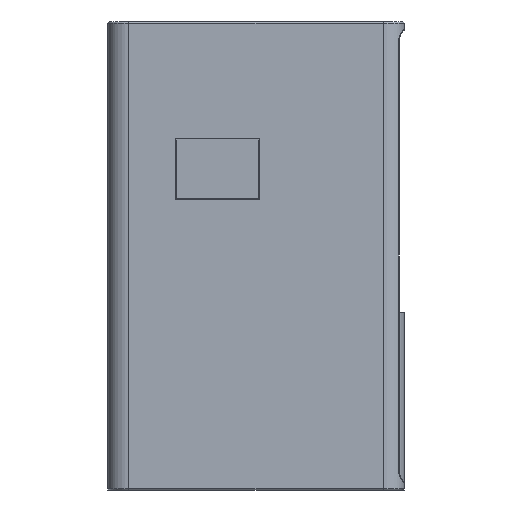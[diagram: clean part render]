
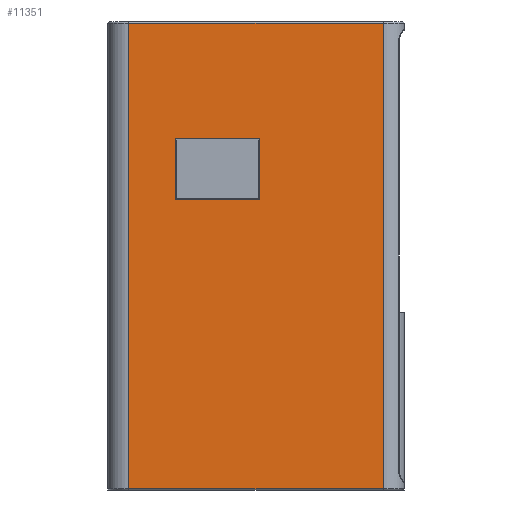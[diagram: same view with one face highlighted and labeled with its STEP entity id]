
A CAD part, left-side view. The second image highlights one B-rep face of the part: STEP entity #11351.
In plain terms, the highlighted planar face has unit normal (-1, 0, 0).
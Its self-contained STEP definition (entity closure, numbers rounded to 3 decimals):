
#6613 = CYLINDRICAL_SURFACE('',#6614,7.);
#6614 = AXIS2_PLACEMENT_3D('',#6615,#6616,#6617);
#6615 = CARTESIAN_POINT('',(7.,7.,0.));
#6616 = DIRECTION('',(0.,0.,1.));
#6617 = DIRECTION('',(-1.,-0.,0.));
#8462 = PLANE('',#8463);
#8463 = AXIS2_PLACEMENT_3D('',#8464,#8465,#8466);
#8464 = CARTESIAN_POINT('',(0.15,77.,98.35));
#8465 = DIRECTION('',(0.707,0.,-0.707
    ));
#8466 = DIRECTION('',(0.,-1.,0.));
#8516 = PLANE('',#8517);
#8517 = AXIS2_PLACEMENT_3D('',#8518,#8519,#8520);
#8518 = CARTESIAN_POINT('',(0.15,77.15,98.5));
#8519 = DIRECTION('',(-0.707,-0.707,0.
    ));
#8520 = DIRECTION('',(0.,0.,1.));
#8570 = PLANE('',#8571);
#8571 = AXIS2_PLACEMENT_3D('',#8572,#8573,#8574);
#8572 = CARTESIAN_POINT('',(0.15,48.85,98.5));
#8573 = DIRECTION('',(0.707,-0.707,0.
    ));
#8574 = DIRECTION('',(0.,0.,1.));
#8622 = PLANE('',#8623);
#8623 = AXIS2_PLACEMENT_3D('',#8624,#8625,#8626);
#8624 = CARTESIAN_POINT('',(0.15,77.,118.65));
#8625 = DIRECTION('',(-0.707,0.,-0.707
    ));
#8626 = DIRECTION('',(0.,-1.,0.));
#8718 = CYLINDRICAL_SURFACE('',#8719,0.5);
#8719 = AXIS2_PLACEMENT_3D('',#8720,#8721,#8722);
#8720 = CARTESIAN_POINT('',(0.5,7.,157.5));
#8721 = DIRECTION('',(-0.,1.,0.));
#8722 = DIRECTION('',(0.,0.,1.));
#9474 = VERTEX_POINT('',#9475);
#9475 = CARTESIAN_POINT('',(0.,7.,157.5));
#9497 = EDGE_CURVE('',#9498,#9474,#9500,.T.);
#9498 = VERTEX_POINT('',#9499);
#9499 = CARTESIAN_POINT('',(0.,7.,0.5));
#9500 = SURFACE_CURVE('',#9501,(#9505,#9512),.PCURVE_S1.);
#9501 = LINE('',#9502,#9503);
#9502 = CARTESIAN_POINT('',(0.,7.,0.));
#9503 = VECTOR('',#9504,1.);
#9504 = DIRECTION('',(0.,0.,1.));
#9505 = PCURVE('',#6613,#9506);
#9506 = DEFINITIONAL_REPRESENTATION('',(#9507),#9511);
#9507 = LINE('',#9508,#9509);
#9508 = CARTESIAN_POINT('',(0.,0.));
#9509 = VECTOR('',#9510,1.);
#9510 = DIRECTION('',(0.,1.));
#9511 = ( GEOMETRIC_REPRESENTATION_CONTEXT(2)
PARAMETRIC_REPRESENTATION_CONTEXT() REPRESENTATION_CONTEXT('2D SPACE',''
  ) );
#9512 = PCURVE('',#9513,#9518);
#9513 = PLANE('',#9514);
#9514 = AXIS2_PLACEMENT_3D('',#9515,#9516,#9517);
#9515 = CARTESIAN_POINT('',(0.,0.,0.));
#9516 = DIRECTION('',(1.,0.,-0.));
#9517 = DIRECTION('',(0.,0.,1.));
#9518 = DEFINITIONAL_REPRESENTATION('',(#9519),#9523);
#9519 = LINE('',#9520,#9521);
#9520 = CARTESIAN_POINT('',(0.,-7.));
#9521 = VECTOR('',#9522,1.);
#9522 = DIRECTION('',(1.,0.));
#9523 = ( GEOMETRIC_REPRESENTATION_CONTEXT(2)
PARAMETRIC_REPRESENTATION_CONTEXT() REPRESENTATION_CONTEXT('2D SPACE',''
  ) );
#10237 = VERTEX_POINT('',#10238);
#10238 = CARTESIAN_POINT('',(0.,77.3,98.2));
#10261 = VERTEX_POINT('',#10262);
#10262 = CARTESIAN_POINT('',(0.,48.7,98.2));
#10283 = EDGE_CURVE('',#10237,#10261,#10284,.T.);
#10284 = SURFACE_CURVE('',#10285,(#10289,#10296),.PCURVE_S1.);
#10285 = LINE('',#10286,#10287);
#10286 = CARTESIAN_POINT('',(0.,77.,98.2));
#10287 = VECTOR('',#10288,1.);
#10288 = DIRECTION('',(0.,-1.,0.));
#10289 = PCURVE('',#8462,#10290);
#10290 = DEFINITIONAL_REPRESENTATION('',(#10291),#10295);
#10291 = LINE('',#10292,#10293);
#10292 = CARTESIAN_POINT('',(0.,0.212));
#10293 = VECTOR('',#10294,1.);
#10294 = DIRECTION('',(1.,0.));
#10295 = ( GEOMETRIC_REPRESENTATION_CONTEXT(2)
PARAMETRIC_REPRESENTATION_CONTEXT() REPRESENTATION_CONTEXT('2D SPACE',''
  ) );
#10296 = PCURVE('',#9513,#10297);
#10297 = DEFINITIONAL_REPRESENTATION('',(#10298),#10302);
#10298 = LINE('',#10299,#10300);
#10299 = CARTESIAN_POINT('',(98.2,-77.));
#10300 = VECTOR('',#10301,1.);
#10301 = DIRECTION('',(0.,1.));
#10302 = ( GEOMETRIC_REPRESENTATION_CONTEXT(2)
PARAMETRIC_REPRESENTATION_CONTEXT() REPRESENTATION_CONTEXT('2D SPACE',''
  ) );
#10310 = VERTEX_POINT('',#10311);
#10311 = CARTESIAN_POINT('',(0.,77.3,118.8));
#10332 = EDGE_CURVE('',#10237,#10310,#10333,.T.);
#10333 = SURFACE_CURVE('',#10334,(#10338,#10345),.PCURVE_S1.);
#10334 = LINE('',#10335,#10336);
#10335 = CARTESIAN_POINT('',(0.,77.3,98.5));
#10336 = VECTOR('',#10337,1.);
#10337 = DIRECTION('',(0.,0.,1.));
#10338 = PCURVE('',#8516,#10339);
#10339 = DEFINITIONAL_REPRESENTATION('',(#10340),#10344);
#10340 = LINE('',#10341,#10342);
#10341 = CARTESIAN_POINT('',(0.,0.212));
#10342 = VECTOR('',#10343,1.);
#10343 = DIRECTION('',(1.,0.));
#10344 = ( GEOMETRIC_REPRESENTATION_CONTEXT(2)
PARAMETRIC_REPRESENTATION_CONTEXT() REPRESENTATION_CONTEXT('2D SPACE',''
  ) );
#10345 = PCURVE('',#9513,#10346);
#10346 = DEFINITIONAL_REPRESENTATION('',(#10347),#10351);
#10347 = LINE('',#10348,#10349);
#10348 = CARTESIAN_POINT('',(98.5,-77.3));
#10349 = VECTOR('',#10350,1.);
#10350 = DIRECTION('',(1.,0.));
#10351 = ( GEOMETRIC_REPRESENTATION_CONTEXT(2)
PARAMETRIC_REPRESENTATION_CONTEXT() REPRESENTATION_CONTEXT('2D SPACE',''
  ) );
#10359 = VERTEX_POINT('',#10360);
#10360 = CARTESIAN_POINT('',(0.,48.7,118.8));
#10381 = EDGE_CURVE('',#10261,#10359,#10382,.T.);
#10382 = SURFACE_CURVE('',#10383,(#10387,#10394),.PCURVE_S1.);
#10383 = LINE('',#10384,#10385);
#10384 = CARTESIAN_POINT('',(0.,48.7,98.5));
#10385 = VECTOR('',#10386,1.);
#10386 = DIRECTION('',(0.,0.,1.));
#10387 = PCURVE('',#8570,#10388);
#10388 = DEFINITIONAL_REPRESENTATION('',(#10389),#10393);
#10389 = LINE('',#10390,#10391);
#10390 = CARTESIAN_POINT('',(0.,0.212));
#10391 = VECTOR('',#10392,1.);
#10392 = DIRECTION('',(1.,0.));
#10393 = ( GEOMETRIC_REPRESENTATION_CONTEXT(2)
PARAMETRIC_REPRESENTATION_CONTEXT() REPRESENTATION_CONTEXT('2D SPACE',''
  ) );
#10394 = PCURVE('',#9513,#10395);
#10395 = DEFINITIONAL_REPRESENTATION('',(#10396),#10400);
#10396 = LINE('',#10397,#10398);
#10397 = CARTESIAN_POINT('',(98.5,-48.7));
#10398 = VECTOR('',#10399,1.);
#10399 = DIRECTION('',(1.,0.));
#10400 = ( GEOMETRIC_REPRESENTATION_CONTEXT(2)
PARAMETRIC_REPRESENTATION_CONTEXT() REPRESENTATION_CONTEXT('2D SPACE',''
  ) );
#10408 = EDGE_CURVE('',#10310,#10359,#10409,.T.);
#10409 = SURFACE_CURVE('',#10410,(#10414,#10421),.PCURVE_S1.);
#10410 = LINE('',#10411,#10412);
#10411 = CARTESIAN_POINT('',(0.,77.,118.8));
#10412 = VECTOR('',#10413,1.);
#10413 = DIRECTION('',(0.,-1.,0.));
#10414 = PCURVE('',#8622,#10415);
#10415 = DEFINITIONAL_REPRESENTATION('',(#10416),#10420);
#10416 = LINE('',#10417,#10418);
#10417 = CARTESIAN_POINT('',(0.,0.212));
#10418 = VECTOR('',#10419,1.);
#10419 = DIRECTION('',(1.,0.));
#10420 = ( GEOMETRIC_REPRESENTATION_CONTEXT(2)
PARAMETRIC_REPRESENTATION_CONTEXT() REPRESENTATION_CONTEXT('2D SPACE',''
  ) );
#10421 = PCURVE('',#9513,#10422);
#10422 = DEFINITIONAL_REPRESENTATION('',(#10423),#10427);
#10423 = LINE('',#10424,#10425);
#10424 = CARTESIAN_POINT('',(118.8,-77.));
#10425 = VECTOR('',#10426,1.);
#10426 = DIRECTION('',(0.,1.));
#10427 = ( GEOMETRIC_REPRESENTATION_CONTEXT(2)
PARAMETRIC_REPRESENTATION_CONTEXT() REPRESENTATION_CONTEXT('2D SPACE',''
  ) );
#10507 = VERTEX_POINT('',#10508);
#10508 = CARTESIAN_POINT('',(0.,93.,157.5));
#10545 = CYLINDRICAL_SURFACE('',#10546,7.);
#10546 = AXIS2_PLACEMENT_3D('',#10547,#10548,#10549);
#10547 = CARTESIAN_POINT('',(7.,93.,0.));
#10548 = DIRECTION('',(0.,0.,1.));
#10549 = DIRECTION('',(-1.,-0.,0.));
#10627 = EDGE_CURVE('',#9474,#10507,#10628,.T.);
#10628 = SURFACE_CURVE('',#10629,(#10633,#10640),.PCURVE_S1.);
#10629 = LINE('',#10630,#10631);
#10630 = CARTESIAN_POINT('',(0.,7.,157.5));
#10631 = VECTOR('',#10632,1.);
#10632 = DIRECTION('',(-0.,1.,0.));
#10633 = PCURVE('',#8718,#10634);
#10634 = DEFINITIONAL_REPRESENTATION('',(#10635),#10639);
#10635 = LINE('',#10636,#10637);
#10636 = CARTESIAN_POINT('',(-1.571,0.));
#10637 = VECTOR('',#10638,1.);
#10638 = DIRECTION('',(-0.,1.));
#10639 = ( GEOMETRIC_REPRESENTATION_CONTEXT(2)
PARAMETRIC_REPRESENTATION_CONTEXT() REPRESENTATION_CONTEXT('2D SPACE',''
  ) );
#10640 = PCURVE('',#9513,#10641);
#10641 = DEFINITIONAL_REPRESENTATION('',(#10642),#10646);
#10642 = LINE('',#10643,#10644);
#10643 = CARTESIAN_POINT('',(157.5,-7.));
#10644 = VECTOR('',#10645,1.);
#10645 = DIRECTION('',(0.,-1.));
#10646 = ( GEOMETRIC_REPRESENTATION_CONTEXT(2)
PARAMETRIC_REPRESENTATION_CONTEXT() REPRESENTATION_CONTEXT('2D SPACE',''
  ) );
#11315 = CYLINDRICAL_SURFACE('',#11316,0.5);
#11316 = AXIS2_PLACEMENT_3D('',#11317,#11318,#11319);
#11317 = CARTESIAN_POINT('',(0.5,7.,0.5));
#11318 = DIRECTION('',(-0.,1.,0.));
#11319 = DIRECTION('',(-1.,-0.,0.));
#11351 = ADVANCED_FACE('',(#11352,#11358),#9513,.F.);
#11352 = FACE_BOUND('',#11353,.F.);
#11353 = EDGE_LOOP('',(#11354,#11355,#11356,#11357));
#11354 = ORIENTED_EDGE('',*,*,#10283,.T.);
#11355 = ORIENTED_EDGE('',*,*,#10381,.T.);
#11356 = ORIENTED_EDGE('',*,*,#10408,.F.);
#11357 = ORIENTED_EDGE('',*,*,#10332,.F.);
#11358 = FACE_BOUND('',#11359,.F.);
#11359 = EDGE_LOOP('',(#11360,#11361,#11384,#11405));
#11360 = ORIENTED_EDGE('',*,*,#9497,.F.);
#11361 = ORIENTED_EDGE('',*,*,#11362,.T.);
#11362 = EDGE_CURVE('',#9498,#11363,#11365,.T.);
#11363 = VERTEX_POINT('',#11364);
#11364 = CARTESIAN_POINT('',(0.,93.,0.5));
#11365 = SURFACE_CURVE('',#11366,(#11370,#11377),.PCURVE_S1.);
#11366 = LINE('',#11367,#11368);
#11367 = CARTESIAN_POINT('',(0.,7.,0.5));
#11368 = VECTOR('',#11369,1.);
#11369 = DIRECTION('',(-0.,1.,0.));
#11370 = PCURVE('',#9513,#11371);
#11371 = DEFINITIONAL_REPRESENTATION('',(#11372),#11376);
#11372 = LINE('',#11373,#11374);
#11373 = CARTESIAN_POINT('',(0.5,-7.));
#11374 = VECTOR('',#11375,1.);
#11375 = DIRECTION('',(0.,-1.));
#11376 = ( GEOMETRIC_REPRESENTATION_CONTEXT(2)
PARAMETRIC_REPRESENTATION_CONTEXT() REPRESENTATION_CONTEXT('2D SPACE',''
  ) );
#11377 = PCURVE('',#11315,#11378);
#11378 = DEFINITIONAL_REPRESENTATION('',(#11379),#11383);
#11379 = LINE('',#11380,#11381);
#11380 = CARTESIAN_POINT('',(-0.,0.));
#11381 = VECTOR('',#11382,1.);
#11382 = DIRECTION('',(-0.,1.));
#11383 = ( GEOMETRIC_REPRESENTATION_CONTEXT(2)
PARAMETRIC_REPRESENTATION_CONTEXT() REPRESENTATION_CONTEXT('2D SPACE',''
  ) );
#11384 = ORIENTED_EDGE('',*,*,#11385,.T.);
#11385 = EDGE_CURVE('',#11363,#10507,#11386,.T.);
#11386 = SURFACE_CURVE('',#11387,(#11391,#11398),.PCURVE_S1.);
#11387 = LINE('',#11388,#11389);
#11388 = CARTESIAN_POINT('',(0.,93.,0.));
#11389 = VECTOR('',#11390,1.);
#11390 = DIRECTION('',(0.,0.,1.));
#11391 = PCURVE('',#9513,#11392);
#11392 = DEFINITIONAL_REPRESENTATION('',(#11393),#11397);
#11393 = LINE('',#11394,#11395);
#11394 = CARTESIAN_POINT('',(0.,-93.));
#11395 = VECTOR('',#11396,1.);
#11396 = DIRECTION('',(1.,0.));
#11397 = ( GEOMETRIC_REPRESENTATION_CONTEXT(2)
PARAMETRIC_REPRESENTATION_CONTEXT() REPRESENTATION_CONTEXT('2D SPACE',''
  ) );
#11398 = PCURVE('',#10545,#11399);
#11399 = DEFINITIONAL_REPRESENTATION('',(#11400),#11404);
#11400 = LINE('',#11401,#11402);
#11401 = CARTESIAN_POINT('',(-0.,0.));
#11402 = VECTOR('',#11403,1.);
#11403 = DIRECTION('',(-0.,1.));
#11404 = ( GEOMETRIC_REPRESENTATION_CONTEXT(2)
PARAMETRIC_REPRESENTATION_CONTEXT() REPRESENTATION_CONTEXT('2D SPACE',''
  ) );
#11405 = ORIENTED_EDGE('',*,*,#10627,.F.);
